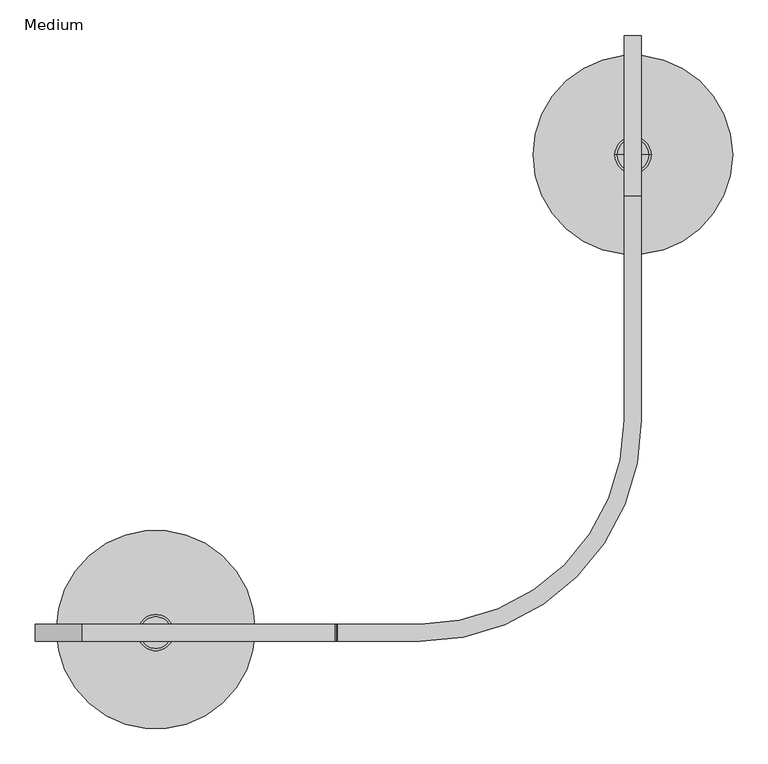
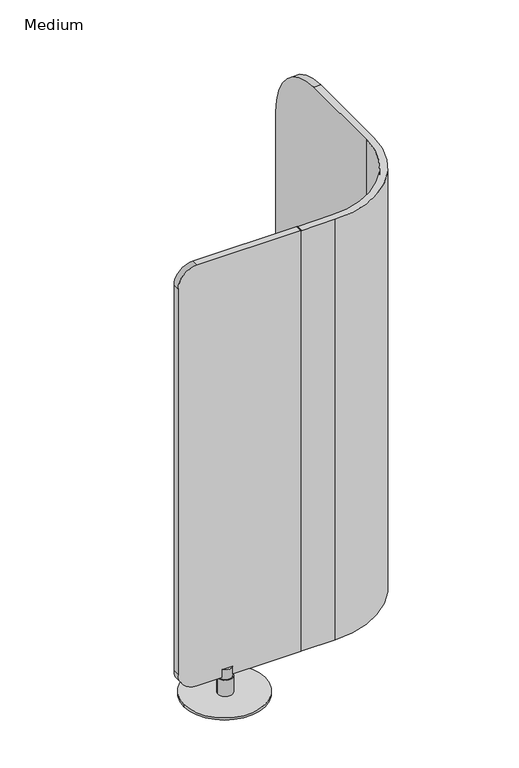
"""IFC4 building model written with IfcOpenShell, lengths in millimetres: furniture geometry, Coalesse_AM_SpaceDivision_Screen_Ensemble_Corner : Medium."""

from ifc_helpers import new_model, si_unit, point, frame, frame_2d, origin, origin_with_axes, place, context, project, spatial, polyline, circle_curve, trimmed, segment, composite_curve, outline, extrude, source, transform, mapped, element, save
from ifc_brep_helpers import plane_surface, cylinder_surface, revolved_surface, advanced_brep


def medium_833216df(model_context):
    return source(origin(), model_context, "Body", "SolidModel", [
        advanced_brep(
        [(542.087374, 23.9774863, 1606.042), (542.087374, 23.9774863, 74.5093328), (425.2080637, 23.9774863, 74.5094463), (423.9933105, 23.9774863, 75.7241996), (423.9933105, 23.9774863, 1604.8080263), (425.2272842, 23.9774863, 1606.042), (829.995618, 311.9750865, 1606.042), (829.995618, 311.9750865, 74.5093328), (542.0984688, 0.0, 1606.042), (542.0984688, 0.0, 74.5093328), (853.9976686, 311.8991998, 74.5093328), (853.9976686, 311.8991998, 1606.042), (425.2272842, 0.0, 1606.042), (423.9933105, 0.0, 1604.8080263), (423.9933105, 0.0, 75.7241996), (425.2080637, 0.0, 74.5094463), (853.9730377, 628.1115594, 1606.042), (853.9730377, 789.1395851, 74.509804), (853.9730377, 853.9734079, 139.3436268), (853.9730377, 853.9734079, 1380.1801515), (829.995618, 789.1395851, 74.509804), (829.995618, 628.1115594, 1606.042), (829.995618, 853.9734079, 1380.1801515), (829.995618, 853.9734079, 139.3436268)],
        [
            (0, 1),
            (1, 2),
            (2, 3, circle_curve(frame((425.2080637, 23.9774863, 75.7241996), z_axis=(0.0, 1.0, 0.0), x_axis=(1.0, 0.0, 0.0)), 1.2147532)),
            (3, 4),
            (4, 5, circle_curve(frame((425.2272842, 23.9774863, 1604.8080263), z_axis=(0.0, 1.0, 0.0), x_axis=(1.0, 0.0, 0.0)), 1.2339737)),
            (5, 0),
            (6, 7),
            (7, 1, circle_curve(frame((542.087374, 311.8857441, 74.5093328), z_axis=(0.0, 0.0, -1.0), x_axis=(1.0, 0.0, 0.0)), 287.9082578)),
            (0, 6, circle_curve(frame((542.087374, 311.8857441, 1606.042), z_axis=(0.0, 0.0, 1.0), x_axis=(1.0, 0.0, 0.0)), 287.9082578)),
            (8, 9),
            (9, 10, circle_curve(frame((542.0984688, 311.8991998, 74.5093328), z_axis=(0.0, 0.0, 1.0), x_axis=(1.0, 0.0, 0.0)), 311.8991998)),
            (10, 11),
            (11, 8, circle_curve(frame((542.0984688, 311.8991998, 1606.042), z_axis=(0.0, 0.0, -1.0), x_axis=(1.0, 0.0, 0.0)), 311.8991998)),
            (12, 13, circle_curve(frame((425.2272842, 0.0, 1604.8080263), z_axis=(0.0, -1.0, 0.0), x_axis=(1.0, 0.0, 0.0)), 1.2339737)),
            (13, 14),
            (14, 15, circle_curve(frame((425.2080637, 0.0, 75.7241996), z_axis=(0.0, -1.0, 0.0), x_axis=(1.0, 0.0, 0.0)), 1.2147532)),
            (15, 9),
            (8, 12),
            (4, 13),
            (12, 5),
            (3, 14),
            (2, 15),
            (16, 11),
            (10, 17),
            (17, 18, circle_curve(frame((853.9730377, 789.1395851, 139.3436268), z_axis=(1.0, 0.0, 0.0), x_axis=(0.0, -1.0, 0.0)), 64.8338228)),
            (18, 19),
            (19, 16, circle_curve(frame((853.9730377, 628.1115594, 1380.1801515), z_axis=(1.0, 0.0, 0.0), x_axis=(0.0, -1.0, 0.0)), 225.8618485)),
            (20, 7),
            (6, 21),
            (21, 22, circle_curve(frame((829.995618, 628.1115594, 1380.1801515), z_axis=(-1.0, 0.0, 0.0), x_axis=(0.0, -1.0, 0.0)), 225.8618485)),
            (22, 23),
            (23, 20, circle_curve(frame((829.995618, 789.1395851, 139.3436268), z_axis=(-1.0, 0.0, 0.0), x_axis=(0.0, -1.0, 0.0)), 64.8338228)),
            (19, 22),
            (21, 16),
            (18, 23),
            (17, 20),
        ],
        [
            plane_surface(frame((537.7681369, 23.9774863, 1606.042), z_axis=(0.0, 1.0, 0.0), x_axis=(0.0, 0.0, -1.0))),
            revolved_surface(polyline([(829.9956318, 311.8857441, 74.5093328), (829.9956318, 311.8857441, 1606.042)]), (542.087374, 311.8857441, 74.5093328), (0.0, 0.0, -1.0)),
            cylinder_surface(frame((542.0984688, 311.8991998, 74.5093328), z_axis=(0.0, 0.0, 1.0), x_axis=(1.0, 0.0, 0.0)), 311.8991998),
            plane_surface(frame((542.0984688, 0.0, 1606.042), z_axis=(0.0, -1.0, 0.0), x_axis=(0.0, 0.0, -1.0))),
            cylinder_surface(frame((425.2272842, 0.0, 1604.8080263), z_axis=(0.0, 1.0, 0.0), x_axis=(1.0, 0.0, 0.0)), 1.2339737),
            plane_surface(frame((423.9933105, 23.9774863, 1604.8080263), z_axis=(-1.0, 0.0, 0.0), x_axis=(0.0, -1.0, 0.0))),
            cylinder_surface(frame((425.2080637, 0.0, 75.7241996), z_axis=(0.0, 1.0, 0.0), x_axis=(1.0, 0.0, 0.0)), 1.2147532),
            plane_surface(frame((853.9730377, 402.2497109, 1380.1801515), z_axis=(1.0, 0.0, 0.0), x_axis=(0.0, 0.0, 1.0))),
            plane_surface(frame((829.995618, 402.2497109, 1380.1801515), z_axis=(-1.0, 0.0, 0.0), x_axis=(0.0, 0.0, -1.0))),
            cylinder_surface(frame((829.995618, 628.1115594, 1380.1801515), z_axis=(1.0, 0.0, 0.0), x_axis=(0.0, -1.0, 0.0)), 225.8618485),
            plane_surface(frame((853.9730377, 853.9734079, 1380.1801515), z_axis=(0.0, 1.0, 0.0), x_axis=(-1.0, 0.0, 0.0))),
            cylinder_surface(frame((829.995618, 789.1395851, 139.3436268), z_axis=(1.0, 0.0, 0.0), x_axis=(0.0, -1.0, 0.0)), 64.8338228),
            plane_surface(frame((853.9730377, 789.1395851, 74.509804), z_axis=(0.0, 0.0, -1.0), x_axis=(-1.0, 0.0, 0.0))),
            plane_surface(frame((853.9730377, 315.8189106, 1606.042), z_axis=(0.0, 0.0, 1.0), x_axis=(-1.0, 0.0, 0.0))),
        ],
        [
            (0, [[1, 2, 3, 4, 5, 6]]),
            (1, [[7, 8, -1, 9]]),
            (2, [[10, 11, 12, 13]]),
            (3, [[14, 15, 16, 17, -10, 18]]),
            (4, [[19, -14, 20, -5]]),
            (5, [[21, -15, -19, -4]]),
            (6, [[22, -16, -21, -3]]),
            (7, [[23, -12, 24, 25, 26, 27]]),
            (8, [[28, -7, 29, 30, 31, 32]]),
            (9, [[33, -30, 34, -27]]),
            (10, [[35, -31, -33, -26]]),
            (11, [[36, -32, -35, -25]]),
            (12, [[-24, -11, -17, -22, -2, -8, -28, -36]]),
            (13, [[-29, -9, -6, -20, -18, -13, -23, -34]]),
        ],
    ),
        extrude(outline(composite_curve([segment(trimmed(circle_curve(frame_2d((1541.0783364, 64.9636636)), 64.9636636), [point((1606.042, 64.9636636))], [point((1541.0783364, 0.0))], False, "CARTESIAN"), True, "CONTINUOUS"), segment(polyline([(1541.0783364, 0.0), (138.0093328, 0.0)]), True, "CONTINUOUS"), segment(trimmed(circle_curve(frame_2d((138.0093328, 63.5)), 63.5), [point((138.0093328, 0.0))], [point((74.5093328, 63.5))], False, "CARTESIAN"), True, "CONTINUOUS"), segment(polyline([(74.5093328, 63.5), (74.5093328, 422.7146225)]), True, "CONTINUOUS"), segment(trimmed(circle_curve(frame_2d((75.7880209, 422.7146225)), 1.278688), [point((74.5093328, 422.7146225))], [point((75.7880209, 423.9933105))], False, "CARTESIAN"), True, "CONTINUOUS"), segment(polyline([(75.7880209, 423.9933105), (1604.8600977, 423.9933105)]), True, "CONTINUOUS"), segment(trimmed(circle_curve(frame_2d((1604.8600977, 422.8114082)), 1.1819023), [point((1604.8600977, 423.9933105))], [point((1606.042, 422.8114082))], False, "CARTESIAN"), True, "CONTINUOUS"), segment(polyline([(1606.042, 422.8114082), (1606.042, 64.9636636)]), True, "CONTINUOUS")], self_intersect=False)), frame((0.0, 0.0, 0.0), z_axis=(0.0, 1.0, 0.0), x_axis=(0.0, 0.0, 1.0)), (0.0, 0.0, 1.0), 23.9774863),
        advanced_brep(
        [(816.700333, 685.8161337, 7.8732992), (842.100333, 685.8161337, 7.8732992), (867.500333, 685.8161337, 7.8732992), (816.700333, 685.8161337, 67.1258584), (867.500333, 685.8161337, 67.1258584), (819.9544051, 685.8161337, 67.1258584), (864.2462609, 685.8161337, 67.1258584), (819.9544051, 685.8161337, 102.873817), (864.2462609, 685.8161337, 102.873817), (842.100333, 685.8161337, 102.873817)],
        [
            (0, 1),
            (1, 2),
            (2, 0, circle_curve(frame((842.100333, 685.8161337, 7.8732992), z_axis=(0.0, 0.0, -1.0), x_axis=(1.0, 0.0, 0.0)), 25.4)),
            (0, 2, circle_curve(frame((842.100333, 685.8161337, 7.8732992), z_axis=(0.0, 0.0, -1.0), x_axis=(1.0, 0.0, 0.0)), 25.4)),
            (3, 0),
            (2, 4),
            (4, 3, circle_curve(frame((842.100333, 685.8161337, 67.1258584), z_axis=(0.0, 0.0, -1.0), x_axis=(1.0, 0.0, 0.0)), 25.4)),
            (3, 4, circle_curve(frame((842.100333, 685.8161337, 67.1258584), z_axis=(0.0, 0.0, -1.0), x_axis=(1.0, 0.0, 0.0)), 25.4)),
            (5, 3),
            (4, 6),
            (6, 5, circle_curve(frame((842.100333, 685.8161337, 67.1258584), z_axis=(0.0, 0.0, -1.0), x_axis=(1.0, 0.0, 0.0)), 22.1459279)),
            (5, 6, circle_curve(frame((842.100333, 685.8161337, 67.1258584), z_axis=(0.0, 0.0, -1.0), x_axis=(1.0, 0.0, 0.0)), 22.1459279)),
            (7, 5),
            (6, 8),
            (8, 7, circle_curve(frame((842.100333, 685.8161337, 102.873817), z_axis=(0.0, 0.0, -1.0), x_axis=(1.0, 0.0, 0.0)), 22.1459279)),
            (7, 8, circle_curve(frame((842.100333, 685.8161337, 102.873817), z_axis=(0.0, 0.0, -1.0), x_axis=(1.0, 0.0, 0.0)), 22.1459279)),
            (9, 7),
            (8, 9),
        ],
        [
            plane_surface(frame((842.100333, 685.8161337, 7.8732992), z_axis=(0.0, 0.0, -1.0), x_axis=(1.0, 0.0, 0.0))),
            cylinder_surface(frame((842.100333, 685.8161337, 102.873817), z_axis=(0.0, 0.0, 1.0), x_axis=(1.0, 0.0, 0.0)), 25.4),
            plane_surface(frame((842.100333, 685.8161337, 67.1258584), z_axis=(0.0, 0.0, 1.0), x_axis=(1.0, 0.0, 0.0))),
            cylinder_surface(frame((842.100333, 685.8161337, 102.873817), z_axis=(0.0, 0.0, 1.0), x_axis=(1.0, 0.0, 0.0)), 22.1459279),
            plane_surface(frame((842.100333, 685.8161337, 102.873817), z_axis=(0.0, 0.0, 1.0), x_axis=(1.0, 0.0, 0.0))),
        ],
        [
            (0, [[1, 2, 3]]),
            (0, [[-2, -1, 4]]),
            (1, [[5, -3, 6, 7]]),
            (1, [[-6, -4, -5, 8]]),
            (2, [[9, -7, 10, 11]]),
            (2, [[-10, -8, -9, 12]]),
            (3, [[13, -11, 14, 15]]),
            (3, [[-14, -12, -13, 16]]),
            (4, [[17, -15, 18]]),
            (4, [[-18, -16, -17]]),
        ],
    ),
        advanced_brep(
        [(144.1303497, 12.7, 7.8732992), (169.5303497, 12.7, 7.8732992), (194.9303497, 12.7, 7.8732992), (144.1303497, 12.7, 67.1258584), (194.9303497, 12.7, 67.1258584), (147.3844218, 12.7, 67.1258584), (191.6762776, 12.7, 67.1258584), (147.3844218, 12.7, 102.873817), (191.6762776, 12.7, 102.873817), (169.5303497, 12.7, 102.873817)],
        [
            (0, 1),
            (1, 2),
            (2, 0, circle_curve(frame((169.5303497, 12.7, 7.8732992), z_axis=(0.0, 0.0, -1.0), x_axis=(1.0, 0.0, 0.0)), 25.4)),
            (0, 2, circle_curve(frame((169.5303497, 12.7, 7.8732992), z_axis=(0.0, 0.0, -1.0), x_axis=(1.0, 0.0, 0.0)), 25.4)),
            (3, 0),
            (2, 4),
            (4, 3, circle_curve(frame((169.5303497, 12.7, 67.1258584), z_axis=(0.0, 0.0, -1.0), x_axis=(1.0, 0.0, 0.0)), 25.4)),
            (3, 4, circle_curve(frame((169.5303497, 12.7, 67.1258584), z_axis=(0.0, 0.0, -1.0), x_axis=(1.0, 0.0, 0.0)), 25.4)),
            (5, 3),
            (4, 6),
            (6, 5, circle_curve(frame((169.5303497, 12.7, 67.1258584), z_axis=(0.0, 0.0, -1.0), x_axis=(1.0, 0.0, 0.0)), 22.1459279)),
            (5, 6, circle_curve(frame((169.5303497, 12.7, 67.1258584), z_axis=(0.0, 0.0, -1.0), x_axis=(1.0, 0.0, 0.0)), 22.1459279)),
            (7, 5),
            (6, 8),
            (8, 7, circle_curve(frame((169.5303497, 12.7, 102.873817), z_axis=(0.0, 0.0, -1.0), x_axis=(1.0, 0.0, 0.0)), 22.1459279)),
            (7, 8, circle_curve(frame((169.5303497, 12.7, 102.873817), z_axis=(0.0, 0.0, -1.0), x_axis=(1.0, 0.0, 0.0)), 22.1459279)),
            (9, 7),
            (8, 9),
        ],
        [
            plane_surface(frame((169.5303497, 12.7, 7.8732992), z_axis=(0.0, 0.0, -1.0), x_axis=(1.0, 0.0, 0.0))),
            cylinder_surface(frame((169.5303497, 12.7, 102.873817), z_axis=(0.0, 0.0, 1.0), x_axis=(1.0, 0.0, 0.0)), 25.4),
            plane_surface(frame((169.5303497, 12.7, 67.1258584), z_axis=(0.0, 0.0, 1.0), x_axis=(1.0, 0.0, 0.0))),
            cylinder_surface(frame((169.5303497, 12.7, 102.873817), z_axis=(0.0, 0.0, 1.0), x_axis=(1.0, 0.0, 0.0)), 22.1459279),
            plane_surface(frame((169.5303497, 12.7, 102.873817), z_axis=(0.0, 0.0, 1.0), x_axis=(1.0, 0.0, 0.0))),
        ],
        [
            (0, [[1, 2, 3]]),
            (0, [[-2, -1, 4]]),
            (1, [[5, -3, 6, 7]]),
            (1, [[-6, -4, -5, 8]]),
            (2, [[9, -7, 10, 11]]),
            (2, [[-10, -8, -9, 12]]),
            (3, [[13, -11, 14, 15]]),
            (3, [[-14, -12, -13, 16]]),
            (4, [[17, -15, 18]]),
            (4, [[-18, -16, -17]]),
        ],
    ),
        extrude(outline(composite_curve([segment(trimmed(circle_curve(frame_2d((169.5303497, 17.0411177)), 140.0479005), [point((29.4824492, 17.0411177))], [point((309.5782503, 17.0411177))], False, "CARTESIAN"), True, "CONTINUOUS"), segment(trimmed(circle_curve(frame_2d((169.5303497, 17.0411177)), 140.0479005), [point((309.5782503, 17.0411177))], [point((29.4824492, 17.0411177))], False, "CARTESIAN"), True, "CONTINUOUS")], self_intersect=False)), origin_with_axes(), (0.0, 0.0, 1.0), 7.8732992),
        extrude(outline(composite_curve([segment(trimmed(circle_curve(frame_2d((841.9822183, 686.081839)), 140.3919114), [point((701.5903068, 686.081839))], [point((982.3741297, 686.081839))], False, "CARTESIAN"), True, "CONTINUOUS"), segment(trimmed(circle_curve(frame_2d((841.9822183, 686.081839)), 140.3919114), [point((982.3741297, 686.081839))], [point((701.5903068, 686.081839))], False, "CARTESIAN"), True, "CONTINUOUS")], self_intersect=False)), origin_with_axes(), (0.0, 0.0, 1.0), 7.8732992),
    ])


if __name__ == "__main__":
    model = new_model("IFC4")
    model_context = context("Model", 3, world=origin())
    ifc_project = project(units=[si_unit("LENGTHUNIT", "METRE", prefix="MILLI")], contexts=[model_context])
    site = spatial("IfcSite", under=ifc_project)
    building = spatial("IfcBuilding", under=site)
    placement = place(None, origin())
    medium_shape = medium_833216df(model_context)
    element("IfcFurniture", 1, ObjectType="Coalesse_AM_SpaceDivision_Screen_Ensemble_Corner : Medium", at=placement, inside=building, context=model_context, shape_type="MappedRepresentation", body=[
        mapped(medium_shape, transform((0.0, 0.0, 0.0), x_axis=(1.0, 0.0, 0.0), y_axis=(0.0, 1.0, 0.0), z_axis=(0.0, 0.0, 1.0))),
    ])
    save(model, "model.ifc")
